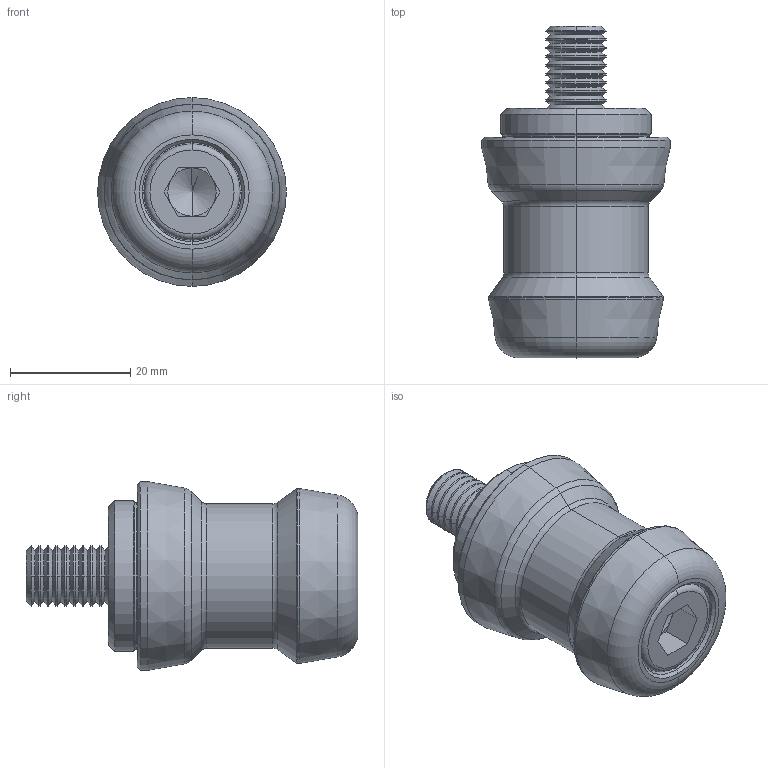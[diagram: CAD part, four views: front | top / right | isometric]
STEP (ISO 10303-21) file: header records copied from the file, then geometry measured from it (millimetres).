
FILE_DESCRIPTION (( 'STEP AP214' ), '1' );
FILE_NAME ('×°ÅäÌå1.STEP', '2021-09-25T01:25:33', ( '' ), ( '' ), 'SwSTEP 2.0', 'SolidWorks 2018', '' );
FILE_SCHEMA (( 'AUTOMOTIVE_DESIGN' ));
Length unit declared in the file: millimetre
Products named in the file (3): socket head cap screw_din_DIN 912 M10 x 45 --- 32S; 蚾饜极1; 畛醫俓嶺間1
Assembly tree (2 placements, depth 2):
  蚾饜极1
    畛醫俓嶺間1
    socket head cap screw_din_DIN 912 M10 x 45 --- 32S
Bounding box: 31.4 x 55.2 x 31.4 mm (x, y, z)
Volume: 22787.7 mm3; surface area: 9147.4 mm2
Topology: 2 solids, 2 shells, 369 faces, 948 edges, 597 vertices
Faces by surface type: cone 112, plane 112, cylinder 64, bspline 63, torus 18
Entity records: 14432 total; most frequent: CARTESIAN_POINT 5516, ORIENTED_EDGE 1892, DIRECTION 1768, EDGE_CURVE 946, AXIS2_PLACEMENT_3D 637, VERTEX_POINT 597, LINE 494, VECTOR 494
